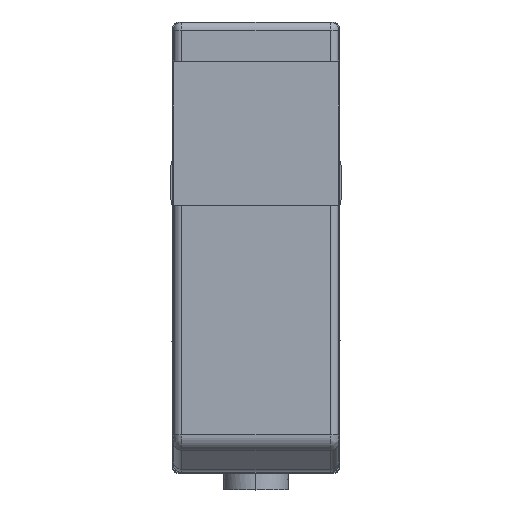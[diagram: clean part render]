
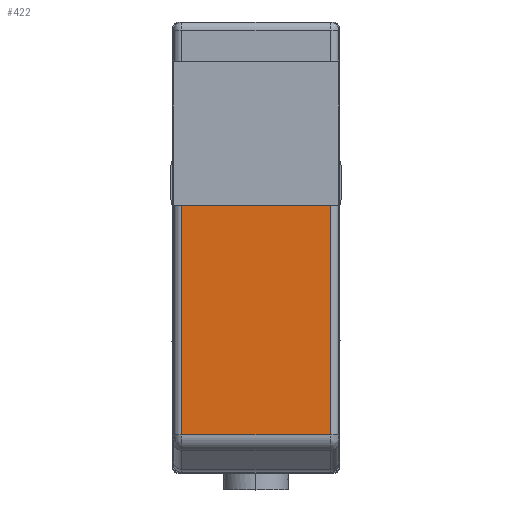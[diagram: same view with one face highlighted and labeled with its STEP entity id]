
A CAD part, top view. The second image highlights one B-rep face of the part: STEP entity #422.
In plain terms, the highlighted planar face has unit normal (0, 0, 1).
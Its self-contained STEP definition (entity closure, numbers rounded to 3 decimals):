
#422=ADVANCED_FACE('',(#2101),#2100,.F.);
#2100=PLANE('',#3571);
#2101=FACE_OUTER_BOUND('',#3572,.T.);
#3568=CARTESIAN_POINT('',(5.34,-26.133,27.4));
#3569=DIRECTION('',(0.,0.,-1.));
#3570=DIRECTION('',(-1.,0.,0.));
#3571=AXIS2_PLACEMENT_3D('',#3568,#3569,#3570);
#3572=EDGE_LOOP('',(#4672,#4673,#4674,#4675));
#4672=ORIENTED_EDGE('',*,*,#5130,.F.);
#4673=ORIENTED_EDGE('',*,*,#5187,.T.);
#4674=ORIENTED_EDGE('',*,*,#5275,.T.);
#4675=ORIENTED_EDGE('',*,*,#5210,.T.);
#5130=EDGE_CURVE('',#7176,#7183,#7184,.T.);
#5187=EDGE_CURVE('',#7176,#7565,#7572,.T.);
#5210=EDGE_CURVE('',#7703,#7183,#7722,.T.);
#5275=EDGE_CURVE('',#7565,#7703,#8148,.T.);
#7176=VERTEX_POINT('',#9787);
#7183=VERTEX_POINT('',#9792);
#7184=LINE('',#9793,#9794);
#7565=VERTEX_POINT('',#10031);
#7572=LINE('',#10036,#10037);
#7703=VERTEX_POINT('',#10119);
#7722=LINE('',#10132,#10133);
#8148=LINE('',#10377,#10378);
#9787=CARTESIAN_POINT('',(-4.45,-11.,27.4));
#9792=CARTESIAN_POINT('',(4.45,-11.,27.4));
#9793=CARTESIAN_POINT('',(-4.45,-11.,27.4));
#9794=VECTOR('',#9795,8.9);
#9795=DIRECTION('',(1.,0.,0.));
#10031=CARTESIAN_POINT('',(-4.45,-24.758,27.4));
#10036=CARTESIAN_POINT('',(-4.45,-11.,27.4));
#10037=VECTOR('',#10038,13.758);
#10038=DIRECTION('',(0.,-1.,0.));
#10119=CARTESIAN_POINT('',(4.45,-24.758,27.4));
#10132=CARTESIAN_POINT('',(4.45,-24.758,27.4));
#10133=VECTOR('',#10134,13.758);
#10134=DIRECTION('',(0.,1.,0.));
#10377=CARTESIAN_POINT('',(-4.45,-24.758,27.4));
#10378=VECTOR('',#10379,8.9);
#10379=DIRECTION('',(1.,0.,0.));
